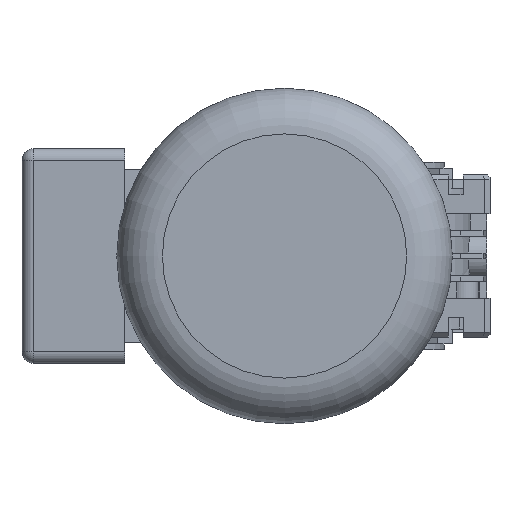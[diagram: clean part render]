
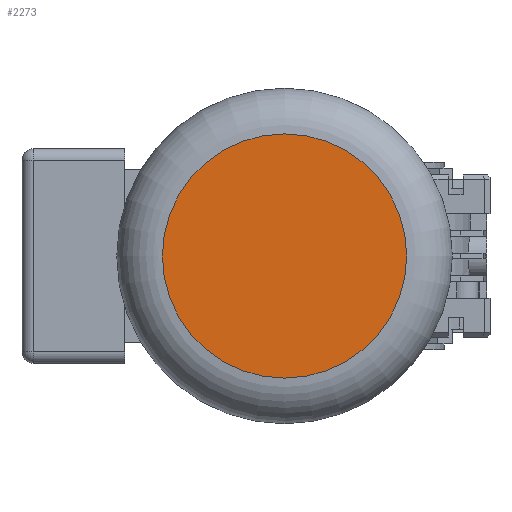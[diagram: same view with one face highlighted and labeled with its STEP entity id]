
A CAD part, left-side view. The second image highlights one B-rep face of the part: STEP entity #2273.
In plain terms, the highlighted planar face has unit normal (-1, 0, 0).
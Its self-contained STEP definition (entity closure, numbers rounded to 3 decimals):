
#2273 = ADVANCED_FACE( '', ( #5123 ), #5124, .T. );
#5123 = FACE_OUTER_BOUND( '', #8534, .T. );
#5124 = PLANE( '', #8535 );
#8534 = EDGE_LOOP( '', ( #15689 ) );
#8535 = AXIS2_PLACEMENT_3D( '', #15690, #15691, #15692 );
#15689 = ORIENTED_EDGE( '', *, *, #23083, .T. );
#15690 = CARTESIAN_POINT( '', ( -281.5, 40., 0. ) );
#15691 = DIRECTION( '', ( -1., 0., 0. ) );
#15692 = DIRECTION( '', ( 0., 1., 0. ) );
#23083 = EDGE_CURVE( '', #28790, #28790, #28791, .T. );
#28790 = VERTEX_POINT( '', #36936 );
#28791 = CIRCLE( '', #36937, 53.5 );
#36936 = CARTESIAN_POINT( '', ( -281.5, 93.5, 0. ) );
#36937 = AXIS2_PLACEMENT_3D( '', #41764, #41765, #41766 );
#41764 = CARTESIAN_POINT( '', ( -281.5, 40., 0. ) );
#41765 = DIRECTION( '', ( -1., 0., 0. ) );
#41766 = DIRECTION( '', ( 0., 1., 0. ) );
